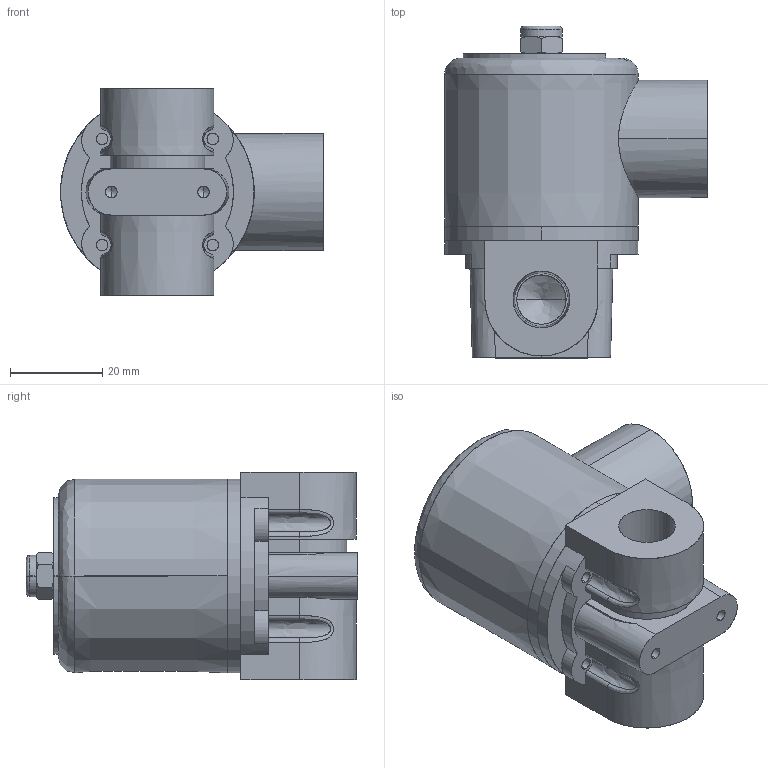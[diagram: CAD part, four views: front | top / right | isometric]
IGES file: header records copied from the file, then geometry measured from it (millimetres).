
Start section: SolidWorks IGES file using analytic representation for surfaces
Global section: file name: C:\Users\Toshiba\Desktop\AS2200-02-#.IGS; native system: SolidWorks 2014; preprocessor: SolidWorks 2014; author: Toshiba; date: 160126.084936; units: millimetre
Bounding box: 57 x 72 x 45 mm (x, y, z)
Surface area: 27285.1 mm2 (no closed solid volume)
Topology: 0 solids, 0 shells, 283 faces, 4294 edges, 4286 vertices
Faces by surface type: revolution 149, bspline 134
